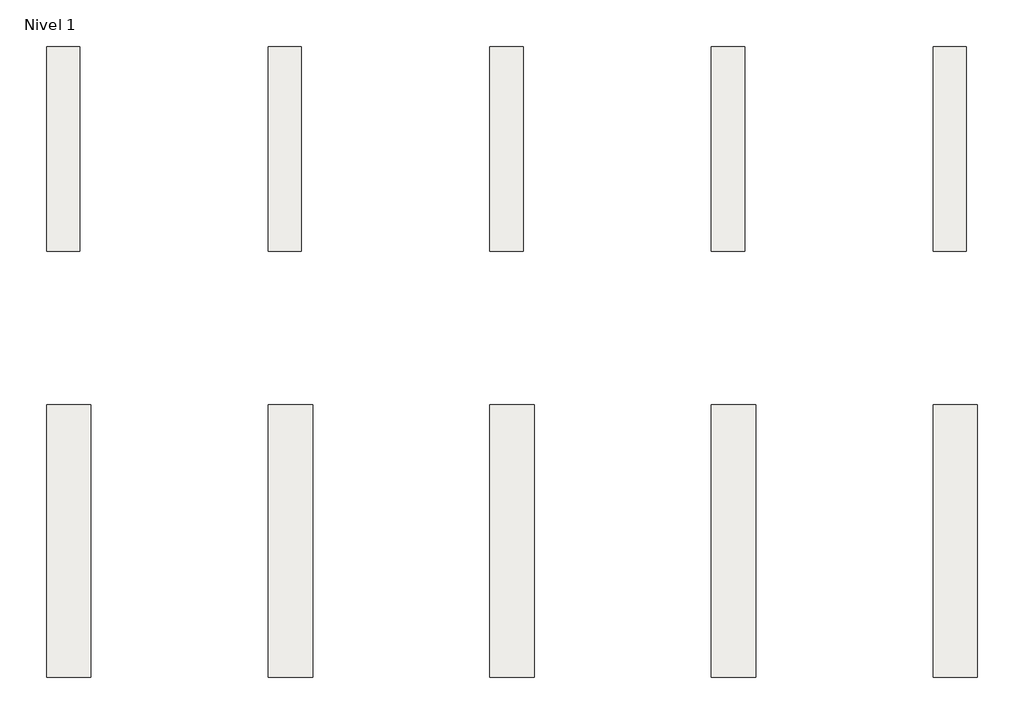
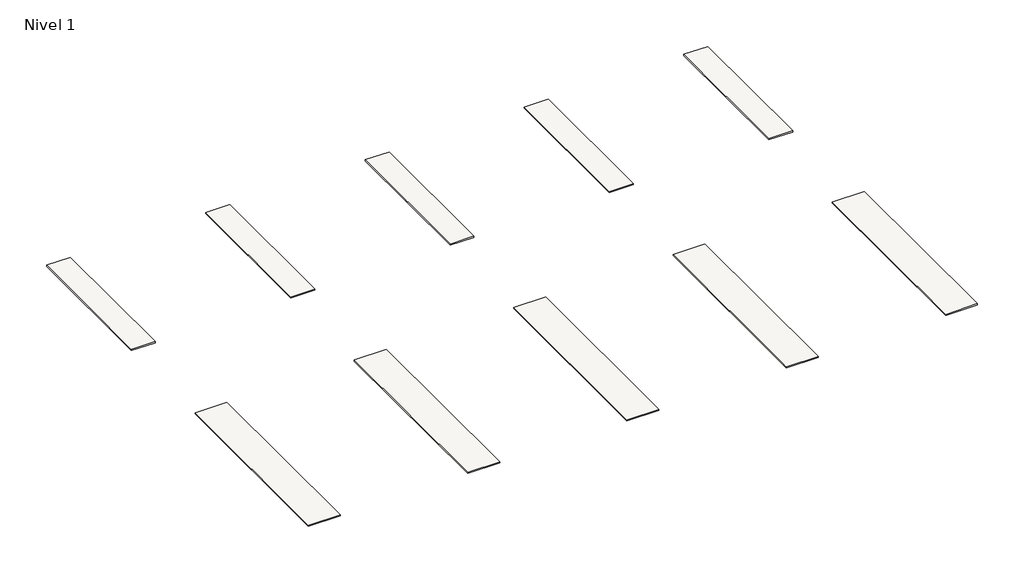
# One storey: 10 slabs.
"""IFC4 building model written with IfcOpenShell, lengths in millimetres."""

import ifcopenshell
import ifcopenshell.guid

model = None  # the IFC model being written
_history = None  # IfcOwnerHistory: only IFC2X3 demands one
_inside = {}  # id of a spatial element -> (the spatial element, [elements in it])
_under = {}  # id of a project, library or spatial element -> (it, [spatial elements below it])
_declared = {}  # id of a project -> (the project, [libraries it declares])
_typed = {}  # id of a type object -> (the type object, [elements of that type])
_made_of = {}  # id of a material, layer set ... -> (it, [elements and type objects made of it])


def new_model(schema):
    """Start an empty IFC model of exactly this schema.

    Asked for "IFC4X3", IfcOpenShell would pick the latest addendum, in which some entities
    have other attributes; the version numbers below select the first issue.
    IFC2X3 requires an IfcOwnerHistory on every rooted entity: one is made here for all.
    """
    global model, _history
    if schema == "IFC4X3":
        model = ifcopenshell.file(schema_version=(4, 3, 0, 0))
    else:
        model = ifcopenshell.file(schema=schema)
    _inside.clear()
    _under.clear()
    _declared.clear()
    _typed.clear()
    _made_of.clear()
    _history = None
    if model.schema == "IFC2X3":
        org = make("IfcOrganization", Name="unknown")
        user = make(
            "IfcPersonAndOrganization",
            ThePerson=make("IfcPerson", FamilyName="unknown"),
            TheOrganization=org,
        )
        app = make(
            "IfcApplication",
            ApplicationDeveloper=org,
            Version="unknown",
            ApplicationFullName="unknown",
            ApplicationIdentifier="unknown",
        )
        _history = make(
            "IfcOwnerHistory",
            OwningUser=user,
            OwningApplication=app,
            ChangeAction="ADDED",
            CreationDate=0,
        )
    return model


def make(cls, **values):
    """One entity of the class cls with the attributes given. An attribute that is None is left unset."""
    return model.create_entity(
        cls, **{name: value for name, value in values.items() if value is not None}
    )


def rooted(cls, **values):
    """An entity with a GlobalId (a new one), such as an element, a storey or a relation."""
    return make(cls, GlobalId=ifcopenshell.guid.new(), OwnerHistory=_history, **values)


def si_unit(unit_type, name, prefix=None):
    """IfcSIUnit, for example si_unit("LENGTHUNIT", "METRE", prefix="MILLI")."""
    return make("IfcSIUnit", UnitType=unit_type, Prefix=prefix, Name=name)


def assignment(units):
    """IfcUnitAssignment: the units of a project."""
    return None if units is None else make("IfcUnitAssignment", Units=units)


def point(xyz):
    """IfcCartesianPoint."""
    return None if xyz is None else make("IfcCartesianPoint", Coordinates=xyz)


def direction(xyz):
    """IfcDirection."""
    return None if xyz is None else make("IfcDirection", DirectionRatios=xyz)


def frame(location, z_axis=None, x_axis=None):
    """IfcAxis2Placement3D, a coordinate frame: its origin and axes. An axis left out is left unset."""
    return make(
        "IfcAxis2Placement3D",
        Location=point(location),
        Axis=direction(z_axis),
        RefDirection=direction(x_axis),
    )


def origin():
    """The frame at (0, 0, 0) with its axes left unset."""
    return frame((0.0, 0.0, 0.0))


def place(relative_to, where):
    """IfcLocalPlacement: puts the frame where relative to a parent placement (None: the world)."""
    return make(
        "IfcLocalPlacement", PlacementRelTo=relative_to, RelativePlacement=where
    )


def context(
    kind, dimensions, precision=None, world=None, true_north=None, identifier=None
):
    """IfcGeometricRepresentationContext, for example the 3D "Model" context."""
    return make(
        "IfcGeometricRepresentationContext",
        ContextIdentifier=identifier,
        ContextType=kind,
        CoordinateSpaceDimension=dimensions,
        Precision=precision,
        WorldCoordinateSystem=world,
        TrueNorth=true_north,
    )


def project(units=None, contexts=None):
    """IfcProject with its units and contexts."""
    return rooted(
        "IfcProject",
        Name="project",
        RepresentationContexts=contexts,
        UnitsInContext=assignment(units),
    )


def spatial(cls, under=None, at=None, **own):
    """A site, building, storey or space (cls), placed at a placement, below another one or the project."""
    s = rooted(cls, ObjectPlacement=at, **own)
    if under is not None:
        _under.setdefault(under.id(), (under, []))[1].append(s)
    return s


def polyline(points):
    """IfcPolyline through the points."""
    return make("IfcPolyline", Points=[point(p) for p in points])


def outline(outer, holes=None, kind="AREA"):
    """IfcArbitraryClosedProfileDef: a profile drawn as a closed curve; with holes, ...WithVoids."""
    if holes is None:
        return make("IfcArbitraryClosedProfileDef", ProfileType=kind, OuterCurve=outer)
    return make(
        "IfcArbitraryProfileDefWithVoids",
        ProfileType=kind,
        OuterCurve=outer,
        InnerCurves=holes,
    )


def extrude(swept, where, along, depth):
    """IfcExtrudedAreaSolid: the profile swept, set in the frame where, extruded along a direction by depth."""
    return make(
        "IfcExtrudedAreaSolid",
        SweptArea=swept,
        Position=where,
        ExtrudedDirection=direction(along),
        Depth=depth,
    )


def shape(context_of_items, identifier, shape_type, items):
    """IfcShapeRepresentation: the items that make up one representation, for example the "Body"."""
    return make(
        "IfcShapeRepresentation",
        ContextOfItems=context_of_items,
        RepresentationIdentifier=identifier,
        RepresentationType=shape_type,
        Items=items,
    )


def made_of(thing, what):
    """Note that an element or type object is made of a material, layer set ...; save() writes the relation."""
    if what is not None:
        _made_of.setdefault(what.id(), (what, []))[1].append(thing)
    return thing


def element(
    cls,
    number,
    at=None,
    inside=None,
    cuts=None,
    type_object=None,
    material=None,
    context=None,
    identifier="Body",
    shape_type=None,
    held_by="IfcProductDefinitionShape",
    body=None,
    shapes=None,
    **own,
):
    """One element of the class cls, such as IfcWall. Its Tag is "e" and its number.

    at: its placement. inside: the storey or other place that contains it. cuts: it is an
    opening in that element (IfcRelVoidsElement). A single representation is given by context,
    identifier, shape_type and body (its items); several are given by shapes. held_by: the class
    of the entity that holds the representations. save() writes the other relations.
    """
    e = rooted(cls, Tag="e%d" % number, ObjectPlacement=at, **own)
    if body is not None:
        shapes = [shape(context, identifier, shape_type, body)]
    if shapes is not None:
        e.Representation = make(held_by, Representations=shapes)
    if inside is not None:
        _inside.setdefault(inside.id(), (inside, []))[1].append(e)
    if cuts is not None:
        rooted(
            "IfcRelVoidsElement", RelatingBuildingElement=cuts, RelatedOpeningElement=e
        )
    if type_object is not None:
        _typed.setdefault(type_object.id(), (type_object, []))[1].append(e)
    return made_of(e, material)


def aggregate(whole, parts):
    """IfcRelAggregates: a whole, such as a stair, and the parts it consists of."""
    return rooted("IfcRelAggregates", RelatingObject=whole, RelatedObjects=parts)


def save(model, path):
    """Write the relations noted so far, then the file.

    IfcRelAggregates (storeys below a building ...), IfcRelContainedInSpatialStructure (elements
    in a storey), IfcRelDefinesByType, IfcRelAssociatesMaterial and IfcRelDeclares: one each for
    every whole, place, type object, material and project.
    """
    for whole, parts in _under.values():
        aggregate(whole, parts)
    for where, things in _inside.values():
        rooted(
            "IfcRelContainedInSpatialStructure",
            RelatedElements=things,
            RelatingStructure=where,
        )
    for kind, things in _typed.values():
        rooted("IfcRelDefinesByType", RelatedObjects=things, RelatingType=kind)
    for what, things in _made_of.values():
        rooted("IfcRelAssociatesMaterial", RelatedObjects=things, RelatingMaterial=what)
    for by, libraries in _declared.values():
        rooted("IfcRelDeclares", RelatingContext=by, RelatedDefinitions=libraries)
    model.write(path)


model = new_model("IFC4")

# Units and contexts
model_context = context("Model", 3, world=origin())
ifc_project = project(units=[si_unit("LENGTHUNIT", "METRE", prefix="MILLI")], contexts=[model_context])

# Site, building, storey
site = spatial("IfcSite", under=ifc_project)
building = spatial("IfcBuilding", under=site)
storey = spatial("IfcBuildingStorey", under=building, Name="Nivel 1", Elevation=0.0)

# Slabs
placement = place(None, origin())
element("IfcSlab", 1, ObjectType="Jungla Iroko 19,5X120 Rec", at=placement, inside=storey, context=model_context, shape_type="SweptSolid", body=[
    extrude(outline(polyline([(0.0, 1200.0), (195.0, 1200.0), (195.0, 0.0), (0.0, 0.0), (0.0, 1200.0)])), frame((0.0, 0.0, -10.0), z_axis=(0.0, 0.0, 1.0), x_axis=(1.0, 0.0, 0.0)), (0.0, 0.0, 1.0), 10.0),
])
element("IfcSlab", 2, ObjectType="Jungla Abeto 19,5X120 Rec", at=placement, inside=storey, context=model_context, shape_type="SweptSolid", body=[
    extrude(outline(polyline([(1300.0, 1200.0), (1495.0, 1200.0), (1495.0, 0.0), (1300.0, 0.0), (1300.0, 1200.0)])), frame((0.0, 0.0, -10.0), z_axis=(0.0, 0.0, 1.0), x_axis=(1.0, 0.0, 0.0)), (0.0, 0.0, 1.0), 10.0),
])
element("IfcSlab", 3, ObjectType="Jungla Cipres 19,5X120 Rec", at=placement, inside=storey, context=model_context, shape_type="SweptSolid", body=[
    extrude(outline(polyline([(2600.0, 1200.0), (2795.0, 1200.0), (2795.0, 0.0), (2600.0, 0.0), (2600.0, 1200.0)])), frame((0.0, 0.0, -10.0), z_axis=(0.0, 0.0, 1.0), x_axis=(1.0, 0.0, 0.0)), (0.0, 0.0, 1.0), 10.0),
])
element("IfcSlab", 4, ObjectType="Jungla Roble 19,5X120 Rec", at=placement, inside=storey, context=model_context, shape_type="SweptSolid", body=[
    extrude(outline(polyline([(3900.0, 1200.0), (4095.0, 1200.0), (4095.0, 0.0), (3900.0, 0.0), (3900.0, 1200.0)])), frame((0.0, 0.0, -10.0), z_axis=(0.0, 0.0, 1.0), x_axis=(1.0, 0.0, 0.0)), (0.0, 0.0, 1.0), 10.0),
])
element("IfcSlab", 5, ObjectType="Jungla Teca 19,5X120 Rec", at=placement, inside=storey, context=model_context, shape_type="SweptSolid", body=[
    extrude(outline(polyline([(5200.0, 1200.0), (5395.0, 1200.0), (5395.0, 0.0), (5200.0, 0.0), (5200.0, 1200.0)])), frame((0.0, 0.0, -10.0), z_axis=(0.0, 0.0, 1.0), x_axis=(1.0, 0.0, 0.0)), (0.0, 0.0, 1.0), 10.0),
])
element("IfcSlab", 6, ObjectType="Jungla Iroko 26X160 Rec", at=placement, inside=storey, context=model_context, shape_type="SweptSolid", body=[
    extrude(outline(polyline([(0.0, -900.0), (260.0, -900.0), (260.0, -2500.0), (0.0, -2500.0), (0.0, -900.0)])), frame((0.0, 0.0, -10.0), z_axis=(0.0, 0.0, 1.0), x_axis=(1.0, 0.0, 0.0)), (0.0, 0.0, 1.0), 10.0),
])
element("IfcSlab", 7, ObjectType="Jungla Abeto 26X160 Rec", at=placement, inside=storey, context=model_context, shape_type="SweptSolid", body=[
    extrude(outline(polyline([(1300.0, -900.0), (1560.0, -900.0), (1560.0, -2500.0), (1300.0, -2500.0), (1300.0, -900.0)])), frame((0.0, 0.0, -10.0), z_axis=(0.0, 0.0, 1.0), x_axis=(1.0, 0.0, 0.0)), (0.0, 0.0, 1.0), 10.0),
])
element("IfcSlab", 8, ObjectType="Jungla Cipres 26X160 Rec", at=placement, inside=storey, context=model_context, shape_type="SweptSolid", body=[
    extrude(outline(polyline([(2600.0, -900.0), (2860.0, -900.0), (2860.0, -2500.0), (2600.0, -2500.0), (2600.0, -900.0)])), frame((0.0, 0.0, -10.0), z_axis=(0.0, 0.0, 1.0), x_axis=(1.0, 0.0, 0.0)), (0.0, 0.0, 1.0), 10.0),
])
element("IfcSlab", 9, ObjectType="Jungla Roble 26X160 Rec", at=placement, inside=storey, context=model_context, shape_type="SweptSolid", body=[
    extrude(outline(polyline([(3900.0, -900.0), (4160.0, -900.0), (4160.0, -2500.0), (3900.0, -2500.0), (3900.0, -900.0)])), frame((0.0, 0.0, -10.0), z_axis=(0.0, 0.0, 1.0), x_axis=(1.0, 0.0, 0.0)), (0.0, 0.0, 1.0), 10.0),
])
element("IfcSlab", 10, ObjectType="Jungla Teca 26X160 Rec", at=placement, inside=storey, context=model_context, shape_type="SweptSolid", body=[
    extrude(outline(polyline([(5200.0, -900.0), (5460.0, -900.0), (5460.0, -2500.0), (5200.0, -2500.0), (5200.0, -900.0)])), frame((0.0, 0.0, -10.0), z_axis=(0.0, 0.0, 1.0), x_axis=(1.0, 0.0, 0.0)), (0.0, 0.0, 1.0), 10.0),
])

save(model, "model.ifc")
